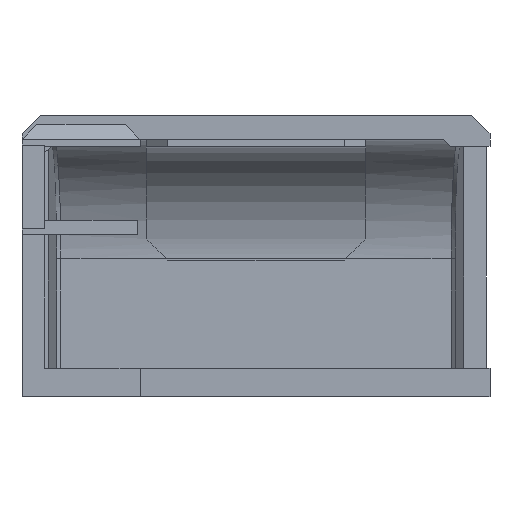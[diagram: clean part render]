
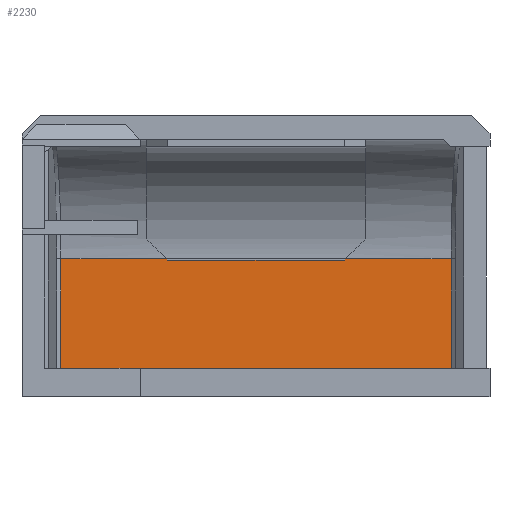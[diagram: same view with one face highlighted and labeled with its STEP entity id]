
A CAD part, front view. The second image highlights one B-rep face of the part: STEP entity #2230.
In plain terms, the highlighted planar face has unit normal (0, -1, 0).
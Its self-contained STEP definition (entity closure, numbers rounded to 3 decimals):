
#156 = PLANE('',#157);
#157 = AXIS2_PLACEMENT_3D('',#158,#159,#160);
#158 = CARTESIAN_POINT('',(-8.5,24.3,-5.8));
#159 = DIRECTION('',(-0.,0.,1.));
#160 = DIRECTION('',(1.,0.,0.));
#1934 = PLANE('',#1935);
#1935 = AXIS2_PLACEMENT_3D('',#1936,#1937,#1938);
#1936 = CARTESIAN_POINT('',(-7.672,35.308,-7.8));
#1937 = DIRECTION('',(-0.688,0.725,0.));
#1938 = DIRECTION('',(0.725,0.688,0.));
#2166 = VERTEX_POINT('',#2167);
#2167 = CARTESIAN_POINT('',(-7.365,35.6,1.9));
#2186 = EDGE_CURVE('',#2166,#2187,#2189,.T.);
#2187 = VERTEX_POINT('',#2188);
#2188 = CARTESIAN_POINT('',(-7.365,35.6,-5.8));
#2189 = SURFACE_CURVE('',#2190,(#2193,#2199),.PCURVE_S1.);
#2190 = B_SPLINE_CURVE_WITH_KNOTS('',1,(#2191,#2192),.UNSPECIFIED.,.F.,
  .F.,(2,2),(0.,1.),.PIECEWISE_BEZIER_KNOTS.);
#2191 = CARTESIAN_POINT('',(-7.365,35.6,1.9));
#2192 = CARTESIAN_POINT('',(-7.365,35.6,-7.8));
#2193 = PCURVE('',#1934,#2194);
#2194 = DEFINITIONAL_REPRESENTATION('',(#2195),#2198);
#2195 = B_SPLINE_CURVE_WITH_KNOTS('',1,(#2196,#2197),.UNSPECIFIED.,.F.,
  .F.,(2,2),(0.,1.),.PIECEWISE_BEZIER_KNOTS.);
#2196 = CARTESIAN_POINT('',(0.424,-9.7));
#2197 = CARTESIAN_POINT('',(0.424,0.));
#2198 = ( GEOMETRIC_REPRESENTATION_CONTEXT(2) 
PARAMETRIC_REPRESENTATION_CONTEXT() REPRESENTATION_CONTEXT('2D SPACE',''
  ) );
#2199 = PCURVE('',#2200,#2205);
#2200 = PLANE('',#2201);
#2201 = AXIS2_PLACEMENT_3D('',#2202,#2203,#2204);
#2202 = CARTESIAN_POINT('',(20.357,35.6,-5.8));
#2203 = DIRECTION('',(0.,-1.,0.));
#2204 = DIRECTION('',(-1.,0.,0.));
#2205 = DEFINITIONAL_REPRESENTATION('',(#2206),#2209);
#2206 = B_SPLINE_CURVE_WITH_KNOTS('',1,(#2207,#2208),.UNSPECIFIED.,.F.,
  .F.,(2,2),(0.,1.),.PIECEWISE_BEZIER_KNOTS.);
#2207 = CARTESIAN_POINT('',(27.721,-7.7));
#2208 = CARTESIAN_POINT('',(27.721,2.));
#2209 = ( GEOMETRIC_REPRESENTATION_CONTEXT(2) 
PARAMETRIC_REPRESENTATION_CONTEXT() REPRESENTATION_CONTEXT('2D SPACE',''
  ) );
#2230 = ADVANCED_FACE('',(#2231),#2200,.T.);
#2231 = FACE_BOUND('',#2232,.T.);
#2232 = EDGE_LOOP('',(#2233,#2256,#2281,#2309,#2336,#2363,#2390,#2416));
#2233 = ORIENTED_EDGE('',*,*,#2234,.F.);
#2234 = EDGE_CURVE('',#2235,#2187,#2237,.T.);
#2235 = VERTEX_POINT('',#2236);
#2236 = CARTESIAN_POINT('',(20.065,35.6,-5.8));
#2237 = SURFACE_CURVE('',#2238,(#2242,#2249),.PCURVE_S1.);
#2238 = LINE('',#2239,#2240);
#2239 = CARTESIAN_POINT('',(21.875,35.6,-5.8));
#2240 = VECTOR('',#2241,1.);
#2241 = DIRECTION('',(-1.,0.,0.));
#2242 = PCURVE('',#2200,#2243);
#2243 = DEFINITIONAL_REPRESENTATION('',(#2244),#2248);
#2244 = LINE('',#2245,#2246);
#2245 = CARTESIAN_POINT('',(-1.518,-0.));
#2246 = VECTOR('',#2247,1.);
#2247 = DIRECTION('',(1.,0.));
#2248 = ( GEOMETRIC_REPRESENTATION_CONTEXT(2) 
PARAMETRIC_REPRESENTATION_CONTEXT() REPRESENTATION_CONTEXT('2D SPACE',''
  ) );
#2249 = PCURVE('',#156,#2250);
#2250 = DEFINITIONAL_REPRESENTATION('',(#2251),#2255);
#2251 = LINE('',#2252,#2253);
#2252 = CARTESIAN_POINT('',(30.375,11.3));
#2253 = VECTOR('',#2254,1.);
#2254 = DIRECTION('',(-1.,0.));
#2255 = ( GEOMETRIC_REPRESENTATION_CONTEXT(2) 
PARAMETRIC_REPRESENTATION_CONTEXT() REPRESENTATION_CONTEXT('2D SPACE',''
  ) );
#2256 = ORIENTED_EDGE('',*,*,#2257,.F.);
#2257 = EDGE_CURVE('',#2258,#2235,#2260,.T.);
#2258 = VERTEX_POINT('',#2259);
#2259 = CARTESIAN_POINT('',(20.065,35.6,1.9));
#2260 = SURFACE_CURVE('',#2261,(#2264,#2270),.PCURVE_S1.);
#2261 = B_SPLINE_CURVE_WITH_KNOTS('',1,(#2262,#2263),.UNSPECIFIED.,.F.,
  .F.,(2,2),(0.,1.),.PIECEWISE_BEZIER_KNOTS.);
#2262 = CARTESIAN_POINT('',(20.065,35.6,1.9));
#2263 = CARTESIAN_POINT('',(20.065,35.6,-7.8));
#2264 = PCURVE('',#2200,#2265);
#2265 = DEFINITIONAL_REPRESENTATION('',(#2266),#2269);
#2266 = B_SPLINE_CURVE_WITH_KNOTS('',1,(#2267,#2268),.UNSPECIFIED.,.F.,
  .F.,(2,2),(0.,1.),.PIECEWISE_BEZIER_KNOTS.);
#2267 = CARTESIAN_POINT('',(0.292,-7.7));
#2268 = CARTESIAN_POINT('',(0.292,2.));
#2269 = ( GEOMETRIC_REPRESENTATION_CONTEXT(2) 
PARAMETRIC_REPRESENTATION_CONTEXT() REPRESENTATION_CONTEXT('2D SPACE',''
  ) );
#2270 = PCURVE('',#2271,#2276);
#2271 = PLANE('',#2272);
#2272 = AXIS2_PLACEMENT_3D('',#2273,#2274,#2275);
#2273 = CARTESIAN_POINT('',(20.372,35.308,-7.8));
#2274 = DIRECTION('',(-0.688,-0.725,-0.));
#2275 = DIRECTION('',(-0.725,0.688,0.));
#2276 = DEFINITIONAL_REPRESENTATION('',(#2277),#2280);
#2277 = B_SPLINE_CURVE_WITH_KNOTS('',1,(#2278,#2279),.UNSPECIFIED.,.F.,
  .F.,(2,2),(0.,1.),.PIECEWISE_BEZIER_KNOTS.);
#2278 = CARTESIAN_POINT('',(0.424,-9.7));
#2279 = CARTESIAN_POINT('',(0.424,0.));
#2280 = ( GEOMETRIC_REPRESENTATION_CONTEXT(2) 
PARAMETRIC_REPRESENTATION_CONTEXT() REPRESENTATION_CONTEXT('2D SPACE',''
  ) );
#2281 = ORIENTED_EDGE('',*,*,#2282,.F.);
#2282 = EDGE_CURVE('',#2283,#2258,#2285,.T.);
#2283 = VERTEX_POINT('',#2284);
#2284 = CARTESIAN_POINT('',(12.65,35.6,1.9));
#2285 = SURFACE_CURVE('',#2286,(#2290,#2297),.PCURVE_S1.);
#2286 = LINE('',#2287,#2288);
#2287 = CARTESIAN_POINT('',(-30.,35.6,1.9));
#2288 = VECTOR('',#2289,1.);
#2289 = DIRECTION('',(1.,0.,0.));
#2290 = PCURVE('',#2200,#2291);
#2291 = DEFINITIONAL_REPRESENTATION('',(#2292),#2296);
#2292 = LINE('',#2293,#2294);
#2293 = CARTESIAN_POINT('',(50.357,-7.7));
#2294 = VECTOR('',#2295,1.);
#2295 = DIRECTION('',(-1.,-0.));
#2296 = ( GEOMETRIC_REPRESENTATION_CONTEXT(2) 
PARAMETRIC_REPRESENTATION_CONTEXT() REPRESENTATION_CONTEXT('2D SPACE',''
  ) );
#2297 = PCURVE('',#2298,#2303);
#2298 = CYLINDRICAL_SURFACE('',#2299,8.4);
#2299 = AXIS2_PLACEMENT_3D('',#2300,#2301,#2302);
#2300 = CARTESIAN_POINT('',(-30.,27.2,1.9));
#2301 = DIRECTION('',(-1.,-0.,-0.));
#2302 = DIRECTION('',(0.,1.,0.));
#2303 = DEFINITIONAL_REPRESENTATION('',(#2304),#2308);
#2304 = LINE('',#2305,#2306);
#2305 = CARTESIAN_POINT('',(-0.,0.));
#2306 = VECTOR('',#2307,1.);
#2307 = DIRECTION('',(-0.,-1.));
#2308 = ( GEOMETRIC_REPRESENTATION_CONTEXT(2) 
PARAMETRIC_REPRESENTATION_CONTEXT() REPRESENTATION_CONTEXT('2D SPACE',''
  ) );
#2309 = ORIENTED_EDGE('',*,*,#2310,.T.);
#2310 = EDGE_CURVE('',#2283,#2311,#2313,.T.);
#2311 = VERTEX_POINT('',#2312);
#2312 = CARTESIAN_POINT('',(12.55,35.6,1.8));
#2313 = SURFACE_CURVE('',#2314,(#2318,#2325),.PCURVE_S1.);
#2314 = LINE('',#2315,#2316);
#2315 = CARTESIAN_POINT('',(0.263,35.6,-10.488));
#2316 = VECTOR('',#2317,1.);
#2317 = DIRECTION('',(-0.707,-0.,-0.707));
#2318 = PCURVE('',#2200,#2319);
#2319 = DEFINITIONAL_REPRESENTATION('',(#2320),#2324);
#2320 = LINE('',#2321,#2322);
#2321 = CARTESIAN_POINT('',(20.094,4.688));
#2322 = VECTOR('',#2323,1.);
#2323 = DIRECTION('',(0.707,0.707));
#2324 = ( GEOMETRIC_REPRESENTATION_CONTEXT(2) 
PARAMETRIC_REPRESENTATION_CONTEXT() REPRESENTATION_CONTEXT('2D SPACE',''
  ) );
#2325 = PCURVE('',#2326,#2331);
#2326 = PLANE('',#2327);
#2327 = AXIS2_PLACEMENT_3D('',#2328,#2329,#2330);
#2328 = CARTESIAN_POINT('',(14.05,60.,3.3));
#2329 = DIRECTION('',(0.707,0.,-0.707));
#2330 = DIRECTION('',(-0.707,0.,-0.707));
#2331 = DEFINITIONAL_REPRESENTATION('',(#2332),#2335);
#2332 = B_SPLINE_CURVE_WITH_KNOTS('',1,(#2333,#2334),.UNSPECIFIED.,.F.,
  .F.,(2,2),(-17.519,-17.377),.PIECEWISE_BEZIER_KNOTS.);
#2333 = CARTESIAN_POINT('',(1.98,-24.4));
#2334 = CARTESIAN_POINT('',(2.121,-24.4));
#2335 = ( GEOMETRIC_REPRESENTATION_CONTEXT(2) 
PARAMETRIC_REPRESENTATION_CONTEXT() REPRESENTATION_CONTEXT('2D SPACE',''
  ) );
#2336 = ORIENTED_EDGE('',*,*,#2337,.T.);
#2337 = EDGE_CURVE('',#2311,#2338,#2340,.T.);
#2338 = VERTEX_POINT('',#2339);
#2339 = CARTESIAN_POINT('',(0.15,35.6,1.8));
#2340 = SURFACE_CURVE('',#2341,(#2345,#2352),.PCURVE_S1.);
#2341 = LINE('',#2342,#2343);
#2342 = CARTESIAN_POINT('',(-8.725,35.6,1.8));
#2343 = VECTOR('',#2344,1.);
#2344 = DIRECTION('',(-1.,0.,0.));
#2345 = PCURVE('',#2200,#2346);
#2346 = DEFINITIONAL_REPRESENTATION('',(#2347),#2351);
#2347 = LINE('',#2348,#2349);
#2348 = CARTESIAN_POINT('',(29.082,-7.6));
#2349 = VECTOR('',#2350,1.);
#2350 = DIRECTION('',(1.,0.));
#2351 = ( GEOMETRIC_REPRESENTATION_CONTEXT(2) 
PARAMETRIC_REPRESENTATION_CONTEXT() REPRESENTATION_CONTEXT('2D SPACE',''
  ) );
#2352 = PCURVE('',#2353,#2358);
#2353 = PLANE('',#2354);
#2354 = AXIS2_PLACEMENT_3D('',#2355,#2356,#2357);
#2355 = CARTESIAN_POINT('',(12.55,60.,1.8));
#2356 = DIRECTION('',(-0.,-0.,-1.));
#2357 = DIRECTION('',(-1.,0.,0.));
#2358 = DEFINITIONAL_REPRESENTATION('',(#2359),#2362);
#2359 = B_SPLINE_CURVE_WITH_KNOTS('',1,(#2360,#2361),.UNSPECIFIED.,.F.,
  .F.,(2,2),(-21.275,-8.875),.PIECEWISE_BEZIER_KNOTS.);
#2360 = CARTESIAN_POINT('',(0.,-24.4));
#2361 = CARTESIAN_POINT('',(12.4,-24.4));
#2362 = ( GEOMETRIC_REPRESENTATION_CONTEXT(2) 
PARAMETRIC_REPRESENTATION_CONTEXT() REPRESENTATION_CONTEXT('2D SPACE',''
  ) );
#2363 = ORIENTED_EDGE('',*,*,#2364,.T.);
#2364 = EDGE_CURVE('',#2338,#2365,#2367,.T.);
#2365 = VERTEX_POINT('',#2366);
#2366 = CARTESIAN_POINT('',(0.05,35.6,1.9));
#2367 = SURFACE_CURVE('',#2368,(#2372,#2379),.PCURVE_S1.);
#2368 = LINE('',#2369,#2370);
#2369 = CARTESIAN_POINT('',(-4.988,35.6,6.938));
#2370 = VECTOR('',#2371,1.);
#2371 = DIRECTION('',(-0.707,0.,0.707));
#2372 = PCURVE('',#2200,#2373);
#2373 = DEFINITIONAL_REPRESENTATION('',(#2374),#2378);
#2374 = LINE('',#2375,#2376);
#2375 = CARTESIAN_POINT('',(25.344,-12.738));
#2376 = VECTOR('',#2377,1.);
#2377 = DIRECTION('',(0.707,-0.707));
#2378 = ( GEOMETRIC_REPRESENTATION_CONTEXT(2) 
PARAMETRIC_REPRESENTATION_CONTEXT() REPRESENTATION_CONTEXT('2D SPACE',''
  ) );
#2379 = PCURVE('',#2380,#2385);
#2380 = PLANE('',#2381);
#2381 = AXIS2_PLACEMENT_3D('',#2382,#2383,#2384);
#2382 = CARTESIAN_POINT('',(0.15,60.,1.8));
#2383 = DIRECTION('',(-0.707,-0.,-0.707));
#2384 = DIRECTION('',(-0.707,0.,0.707));
#2385 = DEFINITIONAL_REPRESENTATION('',(#2386),#2389);
#2386 = B_SPLINE_CURVE_WITH_KNOTS('',1,(#2387,#2388),.UNSPECIFIED.,.F.,
  .F.,(2,2),(-7.266,-7.124),.PIECEWISE_BEZIER_KNOTS.);
#2387 = CARTESIAN_POINT('',(0.,-24.4));
#2388 = CARTESIAN_POINT('',(0.141,-24.4));
#2389 = ( GEOMETRIC_REPRESENTATION_CONTEXT(2) 
PARAMETRIC_REPRESENTATION_CONTEXT() REPRESENTATION_CONTEXT('2D SPACE',''
  ) );
#2390 = ORIENTED_EDGE('',*,*,#2391,.F.);
#2391 = EDGE_CURVE('',#2166,#2365,#2392,.T.);
#2392 = SURFACE_CURVE('',#2393,(#2397,#2404),.PCURVE_S1.);
#2393 = LINE('',#2394,#2395);
#2394 = CARTESIAN_POINT('',(-30.,35.6,1.9));
#2395 = VECTOR('',#2396,1.);
#2396 = DIRECTION('',(1.,0.,0.));
#2397 = PCURVE('',#2200,#2398);
#2398 = DEFINITIONAL_REPRESENTATION('',(#2399),#2403);
#2399 = LINE('',#2400,#2401);
#2400 = CARTESIAN_POINT('',(50.357,-7.7));
#2401 = VECTOR('',#2402,1.);
#2402 = DIRECTION('',(-1.,-0.));
#2403 = ( GEOMETRIC_REPRESENTATION_CONTEXT(2) 
PARAMETRIC_REPRESENTATION_CONTEXT() REPRESENTATION_CONTEXT('2D SPACE',''
  ) );
#2404 = PCURVE('',#2405,#2410);
#2405 = CYLINDRICAL_SURFACE('',#2406,8.4);
#2406 = AXIS2_PLACEMENT_3D('',#2407,#2408,#2409);
#2407 = CARTESIAN_POINT('',(-30.,27.2,1.9));
#2408 = DIRECTION('',(-1.,-0.,-0.));
#2409 = DIRECTION('',(0.,1.,0.));
#2410 = DEFINITIONAL_REPRESENTATION('',(#2411),#2415);
#2411 = LINE('',#2412,#2413);
#2412 = CARTESIAN_POINT('',(-0.,0.));
#2413 = VECTOR('',#2414,1.);
#2414 = DIRECTION('',(-0.,-1.));
#2415 = ( GEOMETRIC_REPRESENTATION_CONTEXT(2) 
PARAMETRIC_REPRESENTATION_CONTEXT() REPRESENTATION_CONTEXT('2D SPACE',''
  ) );
#2416 = ORIENTED_EDGE('',*,*,#2186,.T.);
